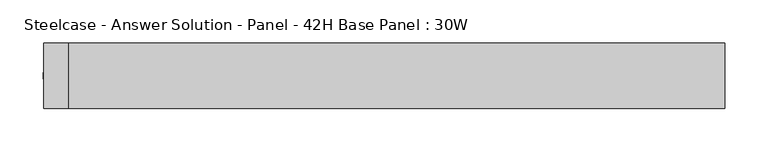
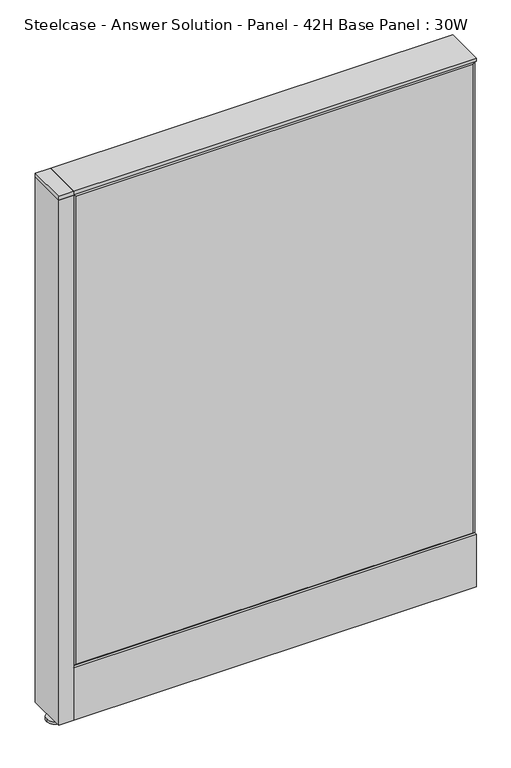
"""IFC4 building model written with IfcOpenShell, lengths in millimetres: furniture geometry, Steelcase - Answer Solution - Panel - 42H Base Panel : 30W."""

from ifc_helpers import new_model, si_unit, point, frame, frame_2d, origin, place, context, project, spatial, polyline, circle_curve, trimmed, segment, composite_curve, outline, extrude, faceted_brep, source, transform, mapped, element, save


def steelcase_answer_solution_panel_42h_base_panel_30w_6612d58d(model_context):
    return source(origin(), model_context, "Body", "SolidModel", [
        extrude(outline(composite_curve([segment(trimmed(circle_curve(frame_2d((-395.224, 0.0039657)), 5.08), [point((-400.304, 0.0039657))], [point((-390.144, 0.0039657))], False, "CARTESIAN"), True, "CONTINUOUS"), segment(trimmed(circle_curve(frame_2d((-395.224, 0.0039657)), 5.08), [point((-390.144, 0.0039657))], [point((-400.304, 0.0039657))], False, "CARTESIAN"), True, "CONTINUOUS")], self_intersect=False)), frame((0.0, 0.0, 5.0799671), z_axis=(0.0, 0.0, 1.0), x_axis=(1.0, 0.0, 0.0)), (0.0, 0.0, 1.0), 10.414),
        extrude(outline(composite_curve([segment(trimmed(circle_curve(frame_2d((-395.224, 0.0039657)), 15.24), [point((-410.464, 0.0039657))], [point((-379.984, 0.0039657))], False, "CARTESIAN"), True, "CONTINUOUS"), segment(trimmed(circle_curve(frame_2d((-395.224, 0.0039657)), 15.24), [point((-379.984, 0.0039657))], [point((-410.464, 0.0039657))], False, "CARTESIAN"), True, "CONTINUOUS")], self_intersect=False)), frame((0.0, 0.0, -3.29e-05), z_axis=(0.0, 0.0, 1.0), x_axis=(1.0, 0.0, 0.0)), (0.0, 0.0, 1.0), 5.08),
        extrude(outline(polyline([(-409.575, 38.1039851), (-381.0, 38.1039851), (-381.0, -38.0960149), (-409.575, -38.0960149), (-409.575, 38.1039851)])), frame((0.0, 0.0, 1065.8348), z_axis=(0.0, 0.0, 1.0), x_axis=(1.0, 0.0, 0.0)), (0.0, 0.0, 1.0), 7.3151671),
        extrude(outline(polyline([(-409.575, 38.1039851), (-381.0, 38.1039851), (-381.0, -38.0960149), (-409.575, -38.0960149), (-409.575, 38.1039851)])), frame((0.0, 0.0, 15.4939671), z_axis=(0.0, 0.0, 1.0), x_axis=(1.0, 0.0, 0.0)), (0.0, 0.0, 1.0), 1050.3408329),
        faceted_brep([(-376.174, 38.1635011, 1061.974), (376.174, 38.1635011, 1061.974), (376.174, 38.1635011, 125.476), (-376.174, 38.1635011, 125.476), (-381.0, 33.3375011, 1066.8), (-381.0, 33.3375011, 120.65), (381.0, 33.3375011, 120.65), (381.0, 33.3375011, 1066.8)], [[[0, 1, 2, 3]], [[4, 5, 6, 7]], [[4, 7, 1, 0]], [[7, 6, 2, 1]], [[6, 5, 3, 2]], [[5, 4, 0, 3]]]),
        faceted_brep([(376.174, -38.1635011, 1061.974), (-376.174, -38.1635011, 1061.974), (-376.174, -38.1635011, 125.476), (376.174, -38.1635011, 125.476), (381.0, -33.3375011, 1066.8), (381.0, -33.3375011, 120.65), (-381.0, -33.3375011, 120.65), (-381.0, -33.3375011, 1066.8)], [[[0, 1, 2, 3]], [[4, 5, 6, 7]], [[4, 7, 1, 0]], [[7, 6, 2, 1]], [[6, 5, 3, 2]], [[5, 4, 0, 3]]]),
        extrude(outline(polyline([(381.0, 38.1000194), (381.0, -38.1000194), (-381.0, -38.1000194), (-381.0, 38.1000194), (381.0, 38.1000194)])), frame((0.0, 0.0, 1066.8), z_axis=(0.0, 0.0, 1.0), x_axis=(1.0, 0.0, 0.0)), (0.0, 0.0, 1.0), 6.35),
        extrude(outline(polyline([(25.4000011, 119.8575157), (25.4000011, 120.65), (38.1000194, 120.65), (38.1000194, 15.494), (37.3075215, 15.494), (37.3075215, 119.8575157), (25.4000011, 119.8575157)])), frame((-381.0, 0.0, 0.0), z_axis=(1.0, 0.0, 0.0), x_axis=(0.0, 1.0, 0.0)), (0.0, 0.0, 1.0), 762.0),
        extrude(outline(polyline([(-25.4000011, 119.8575157), (-37.3075215, 119.8575157), (-37.3075215, 15.494), (-38.1000194, 15.494), (-38.1000194, 120.65), (-25.4000011, 120.65), (-25.4000011, 119.8575157)])), frame((-381.0, 0.0, 0.0), z_axis=(1.0, 0.0, 0.0), x_axis=(0.0, 1.0, 0.0)), (0.0, 0.0, 1.0), 762.0),
    ])


if __name__ == "__main__":
    model = new_model("IFC4")
    model_context = context("Model", 3, world=origin())
    ifc_project = project(units=[si_unit("LENGTHUNIT", "METRE", prefix="MILLI")], contexts=[model_context])
    site = spatial("IfcSite", under=ifc_project)
    building = spatial("IfcBuilding", under=site)
    placement = place(None, origin())
    steelcase_answer_solution_panel_42h_base_panel_30w_shape = steelcase_answer_solution_panel_42h_base_panel_30w_6612d58d(model_context)
    element("IfcFurniture", 1, ObjectType="Steelcase - Answer Solution - Panel - 42H Base Panel : 30W", at=placement, inside=building, context=model_context, shape_type="MappedRepresentation", body=[
        mapped(steelcase_answer_solution_panel_42h_base_panel_30w_shape, transform((0.0, 0.0, 0.0), x_axis=(1.0, 0.0, 0.0), y_axis=(0.0, 1.0, 0.0), z_axis=(0.0, 0.0, 1.0))),
    ])
    save(model, "model.ifc")
